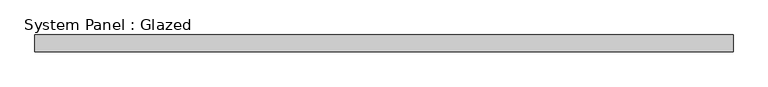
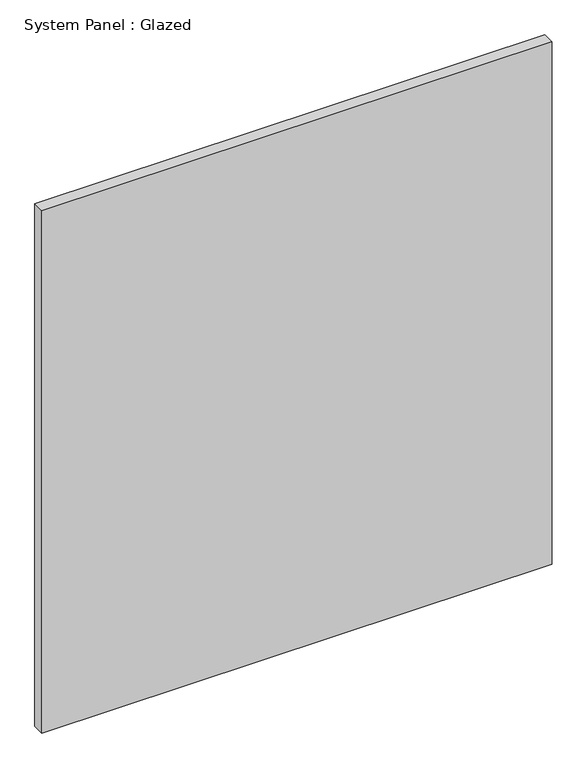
"""IFC4 building model written with IfcOpenShell, lengths in millimetres: plate geometry, System Panel : Glazed."""

from ifc_helpers import new_model, si_unit, origin, origin_with_axes, place, context, project, spatial, polyline, outline, extrude, source, transform, mapped, element, save


def system_panel_glazed_ba000c98(model_context):
    return source(origin(), model_context, "Body", "SweptSolid", [
        extrude(outline(polyline([(534.3071428, 19.05), (-534.3071428, 19.05), (-534.3071428, 44.45), (534.3071428, 44.45), (534.3071428, 19.05)])), origin_with_axes(), (0.0, 0.0, 1.0), 1155.7),
    ])


if __name__ == "__main__":
    model = new_model("IFC4")
    model_context = context("Model", 3, world=origin())
    ifc_project = project(units=[si_unit("LENGTHUNIT", "METRE", prefix="MILLI")], contexts=[model_context])
    site = spatial("IfcSite", under=ifc_project)
    building = spatial("IfcBuilding", under=site)
    placement = place(None, origin())
    system_panel_glazed_shape = system_panel_glazed_ba000c98(model_context)
    element("IfcPlate", 1, ObjectType="System Panel : Glazed", at=placement, inside=building, context=model_context, shape_type="MappedRepresentation", body=[
        mapped(system_panel_glazed_shape, transform((0.0, 0.0, 0.0), x_axis=(1.0, 0.0, 0.0), y_axis=(0.0, 1.0, 0.0), z_axis=(0.0, 0.0, 1.0))),
    ])
    save(model, "model.ifc")
